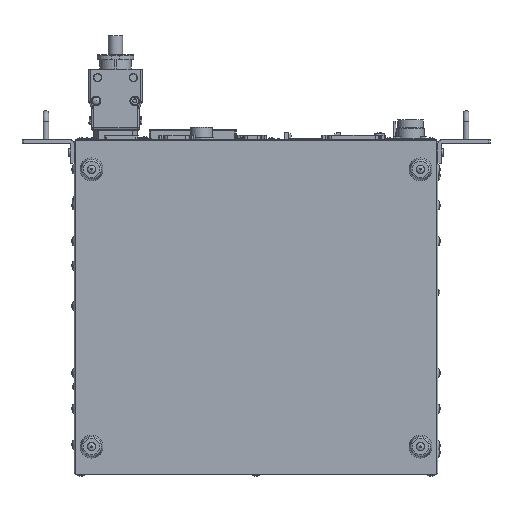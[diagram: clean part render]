
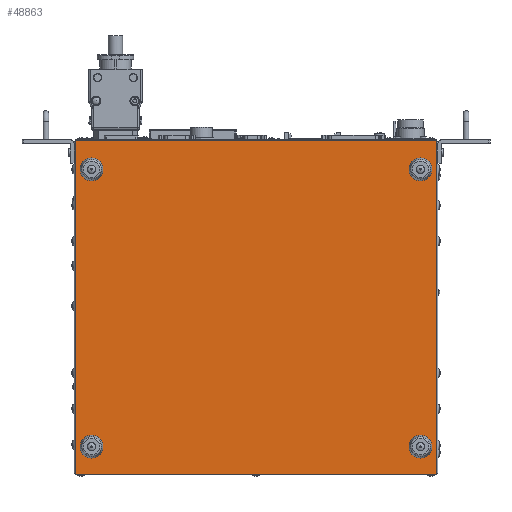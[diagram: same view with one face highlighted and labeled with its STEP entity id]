
A CAD part, front view. The second image highlights one B-rep face of the part: STEP entity #48863.
In plain terms, the highlighted planar face has unit normal (0, -1, 0).
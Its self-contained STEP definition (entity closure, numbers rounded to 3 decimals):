
#2439=ORIENTED_EDGE('',*,*,#12271,.T.);
#2440=ORIENTED_EDGE('',*,*,#11955,.F.);
#2441=ORIENTED_EDGE('',*,*,#12261,.F.);
#2442=ORIENTED_EDGE('',*,*,#12250,.T.);
#11955=EDGE_CURVE('',#16906,#16903,#20328,.T.);
#12250=EDGE_CURVE('',#17172,#17171,#20596,.T.);
#12261=EDGE_CURVE('',#17172,#16906,#20604,.T.);
#12271=EDGE_CURVE('',#17171,#16903,#20611,.T.);
#16903=VERTEX_POINT('',#64632);
#16906=VERTEX_POINT('',#64637);
#17171=VERTEX_POINT('',#65234);
#17172=VERTEX_POINT('',#65236);
#20328=LINE('',#64638,#24284);
#20596=LINE('',#65235,#24552);
#20604=LINE('',#65257,#24560);
#20611=LINE('',#65276,#24567);
#24284=VECTOR('',#54348,1000.);
#24552=VECTOR('',#54744,1000.);
#24560=VECTOR('',#54762,1000.);
#24567=VECTOR('',#54777,1000.);
#28183=EDGE_LOOP('',(#2439,#2440,#2441,#2442));
#30808=FACE_BOUND('',#28183,.T.);
#33381=PLANE('',#51048);
#48863=ADVANCED_FACE('',(#30808),#33381,.F.);
#51048=AXIS2_PLACEMENT_3D('',#65299,#54795,#54796);
#54348=DIRECTION('',(-1.,0.,0.));
#54744=DIRECTION('',(-1.,0.,0.));
#54762=DIRECTION('',(0.,0.,-1.));
#54777=DIRECTION('',(0.,0.,-1.));
#54795=DIRECTION('',(0.,1.,0.));
#54796=DIRECTION('',(0.,0.,1.));
#64632=CARTESIAN_POINT('',(0.,0.,-174.7));
#64637=CARTESIAN_POINT('',(378.,0.,-174.7));
#64638=CARTESIAN_POINT('',(378.,0.,-174.7));
#65234=CARTESIAN_POINT('',(0.,0.,174.5));
#65235=CARTESIAN_POINT('',(378.,0.,174.5));
#65236=CARTESIAN_POINT('',(378.,0.,174.5));
#65257=CARTESIAN_POINT('',(378.,0.,174.5));
#65276=CARTESIAN_POINT('',(0.,0.,174.5));
#65299=CARTESIAN_POINT('',(378.,0.,174.5));
